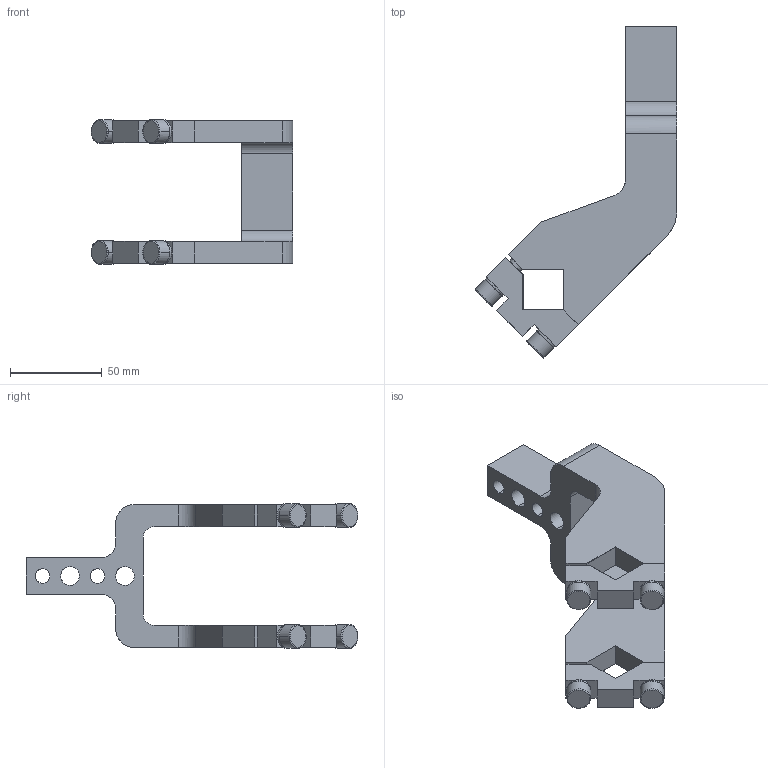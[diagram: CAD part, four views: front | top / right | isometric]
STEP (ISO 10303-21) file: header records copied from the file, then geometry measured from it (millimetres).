
FILE_DESCRIPTION(('CATIA V5 STEP Exchange'),'2;1');
FILE_NAME('E:\clampact\CLAMPACT\clampact\catalog\Clampact Arm\Arm 3D\Clampact Arm\arm_K63_45_A43_Clampact.stp','2022-12-07T04:44:31+00:00',('none'),('none'),'CATIA Version 5 Release 19 SP 6 (IN-10)','CATIA V5 STEP AP203','none');
FILE_SCHEMA(('CONFIG_CONTROL_DESIGN'));
Length unit declared in the file: millimetre
Products named in the file (1): K63_45_A43_Clampact_柯莱普
Bounding box: 110.22 x 181.22 x 79 mm (x, y, z)
Volume: 175870.4 mm3; surface area: 47433.9 mm2
Topology: 1 solids, 5 shells, 166 faces, 412 edges, 256 vertices
Faces by surface type: plane 84, cylinder 50, cone 20, torus 12
Entity records: 5381 total; most frequent: CARTESIAN_POINT 1570, ORIENTED_EDGE 808, DIRECTION 672, EDGE_CURVE 404, AXIS2_PLACEMENT_3D 267, VERTEX_POINT 256, VECTOR 240, LINE 240
